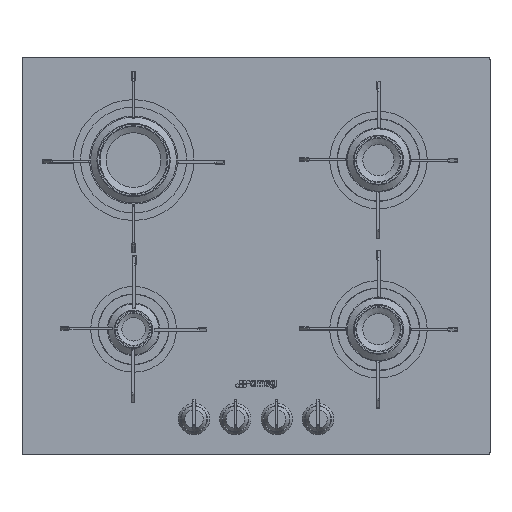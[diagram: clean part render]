
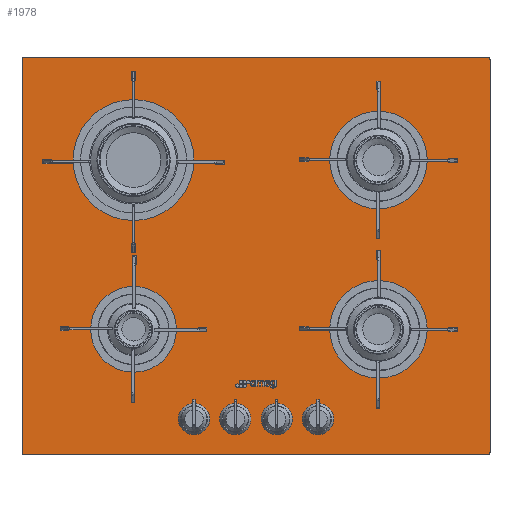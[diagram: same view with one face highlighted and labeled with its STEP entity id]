
A CAD part, top view. The second image highlights one B-rep face of the part: STEP entity #1978.
In plain terms, the highlighted planar face has unit normal (0, 0, 1).
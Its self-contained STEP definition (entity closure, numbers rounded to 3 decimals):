
#774=PLANE('',#13782);
#1978=ADVANCED_FACE('',(#2777,#2778,#2779,#2780,#2781,#2782,#2783,#2784,
#2785),#774,.T.);
#2777=FACE_BOUND('',#3235,.T.);
#2778=FACE_BOUND('',#3236,.T.);
#2779=FACE_BOUND('',#3237,.T.);
#2780=FACE_BOUND('',#3238,.T.);
#2781=FACE_BOUND('',#3239,.T.);
#2782=FACE_BOUND('',#3240,.T.);
#2783=FACE_BOUND('',#3241,.T.);
#2784=FACE_BOUND('',#3242,.T.);
#2785=FACE_BOUND('',#3243,.T.);
#3235=EDGE_LOOP('',(#4883));
#3236=EDGE_LOOP('',(#4884));
#3237=EDGE_LOOP('',(#4885));
#3238=EDGE_LOOP('',(#4886));
#3239=EDGE_LOOP('',(#4887));
#3240=EDGE_LOOP('',(#4888));
#3241=EDGE_LOOP('',(#4889));
#3242=EDGE_LOOP('',(#4890));
#3243=EDGE_LOOP('',(#4891,#4892,#4893,#4894,#4895,#4896,#4897,#4898));
#4883=ORIENTED_EDGE('',*,*,#8754,.F.);
#4884=ORIENTED_EDGE('',*,*,#8755,.F.);
#4885=ORIENTED_EDGE('',*,*,#8756,.F.);
#4886=ORIENTED_EDGE('',*,*,#8757,.F.);
#4887=ORIENTED_EDGE('',*,*,#8758,.F.);
#4888=ORIENTED_EDGE('',*,*,#8759,.F.);
#4889=ORIENTED_EDGE('',*,*,#8760,.F.);
#4890=ORIENTED_EDGE('',*,*,#8761,.F.);
#4891=ORIENTED_EDGE('',*,*,#8752,.T.);
#4892=ORIENTED_EDGE('',*,*,#8762,.T.);
#4893=ORIENTED_EDGE('',*,*,#8738,.T.);
#4894=ORIENTED_EDGE('',*,*,#8763,.T.);
#4895=ORIENTED_EDGE('',*,*,#8742,.T.);
#4896=ORIENTED_EDGE('',*,*,#8764,.T.);
#4897=ORIENTED_EDGE('',*,*,#8748,.T.);
#4898=ORIENTED_EDGE('',*,*,#8765,.T.);
#7448=VERTEX_POINT('',#19793);
#7449=VERTEX_POINT('',#19794);
#7452=VERTEX_POINT('',#19802);
#7453=VERTEX_POINT('',#19803);
#7458=VERTEX_POINT('',#19814);
#7459=VERTEX_POINT('',#19816);
#7462=VERTEX_POINT('',#19823);
#7463=VERTEX_POINT('',#19825);
#7464=VERTEX_POINT('',#19829);
#7465=VERTEX_POINT('',#19831);
#7466=VERTEX_POINT('',#19833);
#7467=VERTEX_POINT('',#19835);
#7468=VERTEX_POINT('',#19837);
#7469=VERTEX_POINT('',#19839);
#7470=VERTEX_POINT('',#19841);
#7471=VERTEX_POINT('',#19843);
#8738=EDGE_CURVE('',#7448,#7449,#11052,.T.);
#8742=EDGE_CURVE('',#7452,#7453,#11056,.T.);
#8748=EDGE_CURVE('',#7459,#7458,#11062,.T.);
#8752=EDGE_CURVE('',#7463,#7462,#11066,.T.);
#8754=EDGE_CURVE('',#7464,#7464,#10022,.T.);
#8755=EDGE_CURVE('',#7465,#7465,#10023,.T.);
#8756=EDGE_CURVE('',#7466,#7466,#10024,.T.);
#8757=EDGE_CURVE('',#7467,#7467,#10025,.T.);
#8758=EDGE_CURVE('',#7468,#7468,#10026,.T.);
#8759=EDGE_CURVE('',#7469,#7469,#10027,.T.);
#8760=EDGE_CURVE('',#7470,#7470,#10028,.T.);
#8761=EDGE_CURVE('',#7471,#7471,#10029,.T.);
#8762=EDGE_CURVE('',#7462,#7448,#10030,.T.);
#8763=EDGE_CURVE('',#7449,#7452,#10031,.T.);
#8764=EDGE_CURVE('',#7453,#7459,#10032,.T.);
#8765=EDGE_CURVE('',#7458,#7463,#10033,.T.);
#10022=CIRCLE('',#13770,71.5);
#10023=CIRCLE('',#13771,49.);
#10024=CIRCLE('',#13772,56.5);
#10025=CIRCLE('',#13773,56.5);
#10026=CIRCLE('',#13774,12.5);
#10027=CIRCLE('',#13775,12.5);
#10028=CIRCLE('',#13776,12.5);
#10029=CIRCLE('',#13777,12.5);
#10030=CIRCLE('',#13778,3.);
#10031=CIRCLE('',#13779,3.);
#10032=CIRCLE('',#13780,3.);
#10033=CIRCLE('',#13781,3.);
#11052=LINE('',#19792,#12246);
#11056=LINE('',#19801,#12250);
#11062=LINE('',#19815,#12256);
#11066=LINE('',#19824,#12260);
#12246=VECTOR('',#15848,1.);
#12250=VECTOR('',#15854,1.);
#12256=VECTOR('',#15862,1.);
#12260=VECTOR('',#15868,1.);
#13770=AXIS2_PLACEMENT_3D('',#19828,#15872,#15873);
#13771=AXIS2_PLACEMENT_3D('',#19830,#15874,#15875);
#13772=AXIS2_PLACEMENT_3D('',#19832,#15876,#15877);
#13773=AXIS2_PLACEMENT_3D('',#19834,#15878,#15879);
#13774=AXIS2_PLACEMENT_3D('',#19836,#15880,#15881);
#13775=AXIS2_PLACEMENT_3D('',#19838,#15882,#15883);
#13776=AXIS2_PLACEMENT_3D('',#19840,#15884,#15885);
#13777=AXIS2_PLACEMENT_3D('',#19842,#15886,#15887);
#13778=AXIS2_PLACEMENT_3D('',#19844,#15888,#15889);
#13779=AXIS2_PLACEMENT_3D('',#19845,#15890,#15891);
#13780=AXIS2_PLACEMENT_3D('',#19846,#15892,#15893);
#13781=AXIS2_PLACEMENT_3D('',#19847,#15894,#15895);
#13782=AXIS2_PLACEMENT_3D('',#19848,#15896,#15897);
#15848=DIRECTION('',(0.,-1.,0.));
#15854=DIRECTION('',(1.,0.,0.));
#15862=DIRECTION('',(0.,1.,0.));
#15868=DIRECTION('',(-1.,0.,0.));
#15872=DIRECTION('',(0.,0.,1.));
#15873=DIRECTION('',(1.,0.,0.));
#15874=DIRECTION('',(0.,0.,1.));
#15875=DIRECTION('',(1.,0.,0.));
#15876=DIRECTION('',(0.,0.,1.));
#15877=DIRECTION('',(1.,0.,0.));
#15878=DIRECTION('',(0.,0.,1.));
#15879=DIRECTION('',(1.,0.,0.));
#15880=DIRECTION('',(0.,0.,1.));
#15881=DIRECTION('',(1.,0.,0.));
#15882=DIRECTION('',(0.,0.,1.));
#15883=DIRECTION('',(1.,0.,0.));
#15884=DIRECTION('',(0.,0.,1.));
#15885=DIRECTION('',(1.,0.,0.));
#15886=DIRECTION('',(0.,0.,1.));
#15887=DIRECTION('',(1.,0.,0.));
#15888=DIRECTION('',(0.,0.,1.));
#15889=DIRECTION('',(1.,0.,0.));
#15890=DIRECTION('',(0.,0.,1.));
#15891=DIRECTION('',(1.,0.,0.));
#15892=DIRECTION('',(0.,0.,1.));
#15893=DIRECTION('',(1.,0.,0.));
#15894=DIRECTION('',(0.,0.,1.));
#15895=DIRECTION('',(1.,0.,0.));
#15896=DIRECTION('',(0.,0.,1.));
#15897=DIRECTION('',(1.,0.,0.));
#19792=CARTESIAN_POINT('',(-300.,495.5,55.));
#19793=CARTESIAN_POINT('',(-300.,492.5,55.));
#19794=CARTESIAN_POINT('',(-300.,-11.5,55.));
#19801=CARTESIAN_POINT('',(-300.,-14.5,55.));
#19802=CARTESIAN_POINT('',(-297.,-14.5,55.));
#19803=CARTESIAN_POINT('',(297.,-14.5,55.));
#19814=CARTESIAN_POINT('',(300.,492.5,55.));
#19815=CARTESIAN_POINT('',(300.,-14.5,55.));
#19816=CARTESIAN_POINT('',(300.,-11.5,55.));
#19823=CARTESIAN_POINT('',(-297.,495.5,55.));
#19824=CARTESIAN_POINT('',(300.,495.5,55.));
#19825=CARTESIAN_POINT('',(297.,495.5,55.));
#19828=CARTESIAN_POINT('',(-157.,363.5,55.));
#19829=CARTESIAN_POINT('',(-85.5,363.5,55.));
#19830=CARTESIAN_POINT('',(-157.,146.5,55.));
#19831=CARTESIAN_POINT('',(-108.,146.5,55.));
#19832=CARTESIAN_POINT('',(157.,146.5,55.));
#19833=CARTESIAN_POINT('',(213.5,146.5,55.));
#19834=CARTESIAN_POINT('',(157.,363.5,55.));
#19835=CARTESIAN_POINT('',(213.5,363.5,55.));
#19836=CARTESIAN_POINT('',(79.5,31.5,55.));
#19837=CARTESIAN_POINT('',(92.,31.5,55.));
#19838=CARTESIAN_POINT('',(26.5,31.5,55.));
#19839=CARTESIAN_POINT('',(39.,31.5,55.));
#19840=CARTESIAN_POINT('',(-26.5,31.5,55.));
#19841=CARTESIAN_POINT('',(-14.,31.5,55.));
#19842=CARTESIAN_POINT('',(-79.5,31.5,55.));
#19843=CARTESIAN_POINT('',(-67.,31.5,55.));
#19844=CARTESIAN_POINT('',(-297.,492.5,55.));
#19845=CARTESIAN_POINT('',(-297.,-11.5,55.));
#19846=CARTESIAN_POINT('',(297.,-11.5,55.));
#19847=CARTESIAN_POINT('',(297.,492.5,55.));
#19848=CARTESIAN_POINT('',(0.,-14.5,55.));
